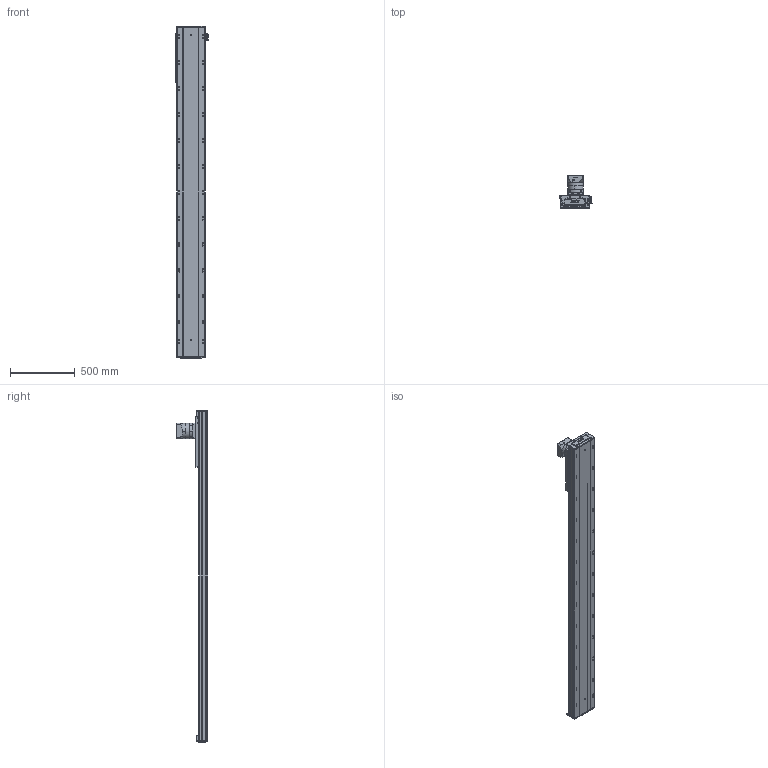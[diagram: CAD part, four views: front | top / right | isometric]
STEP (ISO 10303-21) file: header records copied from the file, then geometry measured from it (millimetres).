
FILE_DESCRIPTION (( 'STEP AP203' ), '1' );
FILE_NAME ('RY220-C-300-UK.SLDASM_2050.step', '2022-08-01T05:59:50', ( '' ), ( '' ), 'SwSTEP 2.0', 'SolidWorks 2016', '' );
FILE_SCHEMA (( 'CONFIG_CONTROL_DESIGN' ));
Length unit declared in the file: millimetre
Products named in the file (10): RY140直线电机感应器674光电安装座; RY220-齿条模组电机安装板; RY220-C-300-UK.SLDASM_2050; RY220喘沭俋离覜茼え; 滅袉蝶輸ㄗG412隅秶ㄘ; 覜茼ん674; RY220喘沭綴裔啣; RY220喘沭賑輸; RY220菁釱MK-300_2050; PF115L1-S2-22-58-110-145-M8
Assembly tree (12 placements, depth 2):
  RY220-C-300-UK.SLDASM_2050
    RY220菁釱MK-300_2050
    RY220喘沭賑輸
    RY220-齿条模组电机安装板
    PF115L1-S2-22-58-110-145-M8
    RY220喘沭綴裔啣  x2
    滅袉蝶輸ㄗG412隅秶ㄘ  x2
    RY140直线电机感应器674光电安装座
    覜茼ん674  x2
    RY220喘沭俋离覜茼え
Bounding box: 247 x 244.5 x 2559 mm (x, y, z)
Volume: 18046079.1 mm3; surface area: 3666038 mm2
Topology: 18 solids, 26 shells, 2212 faces, 5949 edges, 3739 vertices
Faces by surface type: cylinder 1053, plane 751, cone 246, bspline 162
Entity records: 70197 total; most frequent: CARTESIAN_POINT 19143, DIRECTION 10511, ORIENTED_EDGE 10306, EDGE_CURVE 5153, AXIS2_PLACEMENT_3D 4015, VERTEX_POINT 3365, EDGE_LOOP 2562, VECTOR 2481
